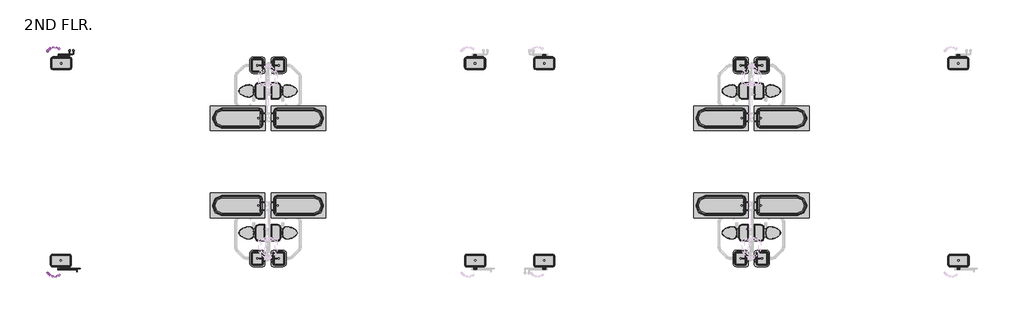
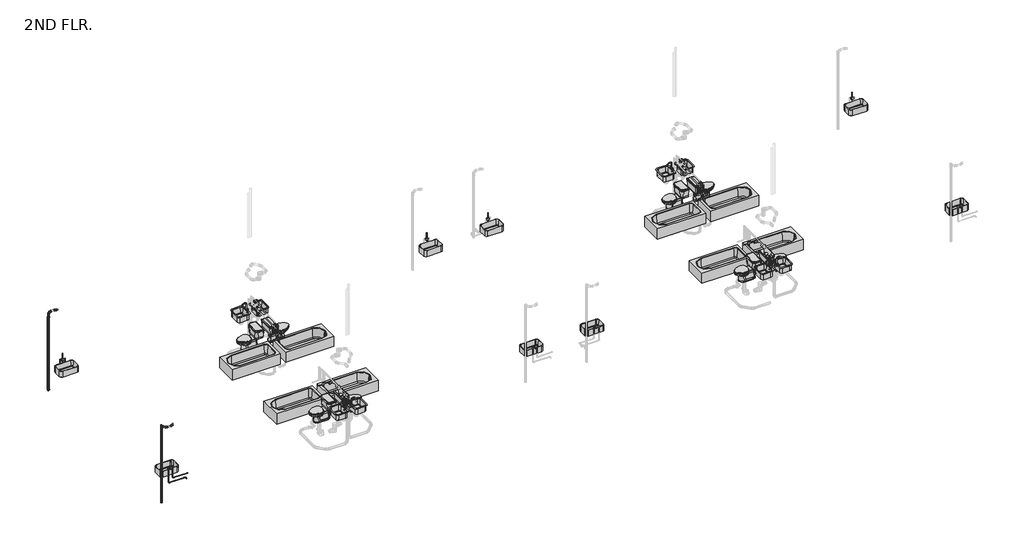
# One storey, part 1 of 15: 32 flow terminals, 21 pipe fittings, 21 pipe segments.
"""IFC4 building model written with IfcOpenShell, lengths in millimetres."""

from ifc_helpers import new_model, si_unit, point, frame, frame_2d, origin, place, context, project, spatial, circle_curve, trimmed, segment, composite_curve, outline, extrude, transform, mapped, element, save
from components import lsy_sink_1a_065a4558, lsy_sink_1a_83b20bf5, flow_terminal_62a433f7, flow_terminal_4d0de4d3, toilet_domestic_3d_toilet_domestic_3d_f7549cf7, toilet_domestic_3d_toilet_domestic_3d_183bbd19, toilet_domestic_3d_toilet_domestic_3d_a08e12bc, toilet_domestic_3d_toilet_domestic_3d_5530cc89, tub_rectangular_3d_tub_rectangular_3d_d1c8eb0f, tub_rectangular_3d_tub_rectangular_3d_b9fe3472, bend_pvc_sch_40_dwv_standard_e59a9f3a, bend_pvc_sch_40_dwv_standard_9b1ab2e2, bend_pvc_sch_40_dwv_standard_c28c2be1, bend_pvc_sch_40_dwv_standard_9a61ab34, pipe_elbow_copper_k_aad62f2d, pipe_elbow_copper_k_4cfe590c, pipe_elbow_copper_k_69a8f9be, pipe_tee_copper_k_60c871d1, pipe_transition_copper_k_4b29cc47, reducer_pvc_sch_40_dwv_standard_b2b0afcc, reducer_pvc_sch_40_dwv_standard_230e9924, tee_sanitary_pvc_sch_40_dwv_standard_be04015c, tee_sanitary_pvc_sch_40_dwv_standard_31acfb72

model = new_model("IFC4")

# Units and contexts
model_context = context("Model", 3, world=origin())
ifc_project = project(units=[si_unit("LENGTHUNIT", "METRE", prefix="MILLI")], contexts=[model_context])

# Site, building, storey
site = spatial("IfcSite", under=ifc_project)
building = spatial("IfcBuilding", under=site)
storey = spatial("IfcBuildingStorey", under=building, Name="2ND FLR.", Elevation=2844.8)

# Flow terminals
placement = place(None, origin())
lsy_sink_1a_shape = lsy_sink_1a_065a4558(model_context)
element("IfcFlowTerminal", 1, ObjectType="LSY_Sink_1A : 25\"W x 15\"D", at=placement, inside=storey, context=model_context, shape_type="MappedRepresentation", body=[
    mapped(lsy_sink_1a_shape, transform((-4245.7932531, 8626.5933869, 2806.7), x_axis=(1.0, 0.0, 0.0), y_axis=(0.0, 1.0, 0.0), z_axis=(0.0, 0.0, 1.0))),
])
element("IfcFlowTerminal", 2, ObjectType="LSY_Sink_1A : 25\"W x 15\"D", at=placement, inside=storey, context=model_context, shape_type="MappedRepresentation", body=[
    mapped(lsy_sink_1a_shape, transform((8488.922728, 2373.0341892, 2806.7), x_axis=(-1.0, 0.0, 0.0), y_axis=(0.0, -1.0, 0.0), z_axis=(0.0, 0.0, 1.0))),
])
element("IfcFlowTerminal", 3, ObjectType="LSY_Sink_1A : 25\"W x 15\"D", at=placement, inside=storey, context=model_context, shape_type="MappedRepresentation", body=[
    mapped(lsy_sink_1a_shape, transform((10578.6067469, 8626.5933869, 2806.7), x_axis=(1.0, 0.0, 0.0), y_axis=(0.0, 1.0, 0.0), z_axis=(0.0, 0.0, 1.0))),
])
element("IfcFlowTerminal", 4, ObjectType="LSY_Sink_1A : 25\"W x 15\"D", at=placement, inside=storey, context=model_context, shape_type="MappedRepresentation", body=[
    mapped(lsy_sink_1a_shape, transform((23313.322728, 2373.0341892, 2806.7), x_axis=(-1.0, 0.0, 0.0), y_axis=(0.0, -1.0, 0.0), z_axis=(0.0, 0.0, 1.0))),
])
lsy_sink_1a_2_shape = lsy_sink_1a_83b20bf5(model_context)
element("IfcFlowTerminal", 5, ObjectType="LSY_Sink_1A : 25\"W x 15\"D", at=placement, inside=storey, context=model_context, shape_type="MappedRepresentation", body=[
    mapped(lsy_sink_1a_2_shape, transform((-4252.3057531, 2373.0341892, 2806.7), x_axis=(1.0, 0.0, 0.0), y_axis=(0.0, 1.0, 0.0), z_axis=(0.0, 0.0, 1.0))),
])
element("IfcFlowTerminal", 6, ObjectType="LSY_Sink_1A : 25\"W x 15\"D", at=placement, inside=storey, context=model_context, shape_type="MappedRepresentation", body=[
    mapped(lsy_sink_1a_2_shape, transform((8482.410228, 8626.5933869, 2806.7), x_axis=(-1.0, 0.0, 0.0), y_axis=(0.0, -1.0, 0.0), z_axis=(0.0, 0.0, 1.0))),
])
element("IfcFlowTerminal", 7, ObjectType="LSY_Sink_1A : 25\"W x 15\"D", at=placement, inside=storey, context=model_context, shape_type="MappedRepresentation", body=[
    mapped(lsy_sink_1a_2_shape, transform((10572.0942469, 2373.0341892, 2806.7), x_axis=(1.0, 0.0, 0.0), y_axis=(0.0, 1.0, 0.0), z_axis=(0.0, 0.0, 1.0))),
])
element("IfcFlowTerminal", 8, ObjectType="LSY_Sink_1A : 25\"W x 15\"D", at=placement, inside=storey, context=model_context, shape_type="MappedRepresentation", body=[
    mapped(lsy_sink_1a_2_shape, transform((23306.810228, 8626.5933869, 2806.7), x_axis=(-1.0, 0.0, 0.0), y_axis=(0.0, -1.0, 0.0), z_axis=(0.0, 0.0, 1.0))),
])
flow_terminal_shape = flow_terminal_62a433f7(model_context)
element("IfcFlowTerminal", 9, ObjectType="Sink Vanity-Square : 20\" x 18\"", at=placement, inside=storey, context=model_context, shape_type="MappedRepresentation", body=[
    mapped(flow_terminal_shape, transform((1841.1630863, 2548.3030286, 2844.8), x_axis=(0.0, -1.0, 0.0), y_axis=(1.0, 0.0, 0.0), z_axis=(0.0, 0.0, 1.0))),
])
element("IfcFlowTerminal", 10, ObjectType="Sink Vanity-Square : 20\" x 18\"", at=placement, inside=storey, context=model_context, shape_type="MappedRepresentation", body=[
    mapped(flow_terminal_shape, transform((2395.4538886, 2516.9245475, 2844.8), x_axis=(0.0, 1.0, 0.0), y_axis=(-1.0, 0.0, 0.0), z_axis=(0.0, 0.0, 1.0))),
])
element("IfcFlowTerminal", 11, ObjectType="Sink Vanity-Square : 20\" x 18\"", at=placement, inside=storey, context=model_context, shape_type="MappedRepresentation", body=[
    mapped(flow_terminal_shape, transform((16665.1630863, 2548.3030286, 2844.8), x_axis=(0.0, -1.0, 0.0), y_axis=(1.0, 0.0, 0.0), z_axis=(0.0, 0.0, 1.0))),
])
element("IfcFlowTerminal", 12, ObjectType="Sink Vanity-Square : 20\" x 18\"", at=placement, inside=storey, context=model_context, shape_type="MappedRepresentation", body=[
    mapped(flow_terminal_shape, transform((17219.4538886, 2516.9245475, 2844.8), x_axis=(0.0, 1.0, 0.0), y_axis=(-1.0, 0.0, 0.0), z_axis=(0.0, 0.0, 1.0))),
])
flow_terminal_2_shape = flow_terminal_4d0de4d3(model_context)
element("IfcFlowTerminal", 13, ObjectType="Sink Vanity-Square : 20\" x 18\"", at=placement, inside=storey, context=model_context, shape_type="MappedRepresentation", body=[
    mapped(flow_terminal_2_shape, transform((16665.1630863, 8451.3245475, 2844.8), x_axis=(0.0, 1.0, 0.0), y_axis=(-1.0, 0.0, 0.0), z_axis=(0.0, 0.0, 1.0))),
])
element("IfcFlowTerminal", 14, ObjectType="Sink Vanity-Square : 20\" x 18\"", at=placement, inside=storey, context=model_context, shape_type="MappedRepresentation", body=[
    mapped(flow_terminal_2_shape, transform((17219.4538886, 8482.7030286, 2844.8), x_axis=(0.0, -1.0, 0.0), y_axis=(1.0, 0.0, 0.0), z_axis=(0.0, 0.0, 1.0))),
])
element("IfcFlowTerminal", 15, ObjectType="Sink Vanity-Square : 20\" x 18\"", at=placement, inside=storey, context=model_context, shape_type="MappedRepresentation", body=[
    mapped(flow_terminal_2_shape, transform((1841.1630863, 8451.3245475, 2844.8), x_axis=(0.0, 1.0, 0.0), y_axis=(-1.0, 0.0, 0.0), z_axis=(0.0, 0.0, 1.0))),
])
element("IfcFlowTerminal", 16, ObjectType="Sink Vanity-Square : 20\" x 18\"", at=placement, inside=storey, context=model_context, shape_type="MappedRepresentation", body=[
    mapped(flow_terminal_2_shape, transform((2395.4538886, 8482.7030286, 2844.8), x_axis=(0.0, -1.0, 0.0), y_axis=(1.0, 0.0, 0.0), z_axis=(0.0, 0.0, 1.0))),
])
toilet_domestic_3d_toilet_domestic_3d_shape = toilet_domestic_3d_toilet_domestic_3d_f7549cf7(model_context)
toilet_domestic_3d_toilet_domestic_3d_2_shape = toilet_domestic_3d_toilet_domestic_3d_183bbd19(model_context)
element("IfcFlowTerminal", 17, ObjectType="Toilet-Domestic-3D : Toilet-Domestic-3D", at=placement, inside=storey, context=model_context, shape_type="MappedRepresentation", body=[
    mapped(toilet_domestic_3d_toilet_domestic_3d_shape, transform((1526.6124601, 3320.0137881, 2844.8), x_axis=(0.0, -1.0, 0.0), y_axis=(1.0, 0.0, 0.0), z_axis=(0.0, 0.0, 1.0))),
    mapped(toilet_domestic_3d_toilet_domestic_3d_2_shape, transform((1526.6124601, 3320.0137881, 2844.8), x_axis=(0.0, -1.0, 0.0), y_axis=(1.0, 0.0, 0.0), z_axis=(0.0, 0.0, 1.0))),
])
element("IfcFlowTerminal", 18, ObjectType="Toilet-Domestic-3D : Toilet-Domestic-3D", at=placement, inside=storey, context=model_context, shape_type="MappedRepresentation", body=[
    mapped(toilet_domestic_3d_toilet_domestic_3d_shape, transform((2710.0045148, 3320.0137881, 2844.8), x_axis=(0.0, 1.0, 0.0), y_axis=(-1.0, 0.0, 0.0), z_axis=(0.0, 0.0, 1.0))),
    mapped(toilet_domestic_3d_toilet_domestic_3d_2_shape, transform((2710.0045148, 3320.0137881, 2844.8), x_axis=(0.0, 1.0, 0.0), y_axis=(-1.0, 0.0, 0.0), z_axis=(0.0, 0.0, 1.0))),
])
element("IfcFlowTerminal", 19, ObjectType="Toilet-Domestic-3D : Toilet-Domestic-3D", at=placement, inside=storey, context=model_context, shape_type="MappedRepresentation", body=[
    mapped(toilet_domestic_3d_toilet_domestic_3d_shape, transform((16350.6124601, 3320.0137881, 2844.8), x_axis=(0.0, -1.0, 0.0), y_axis=(1.0, 0.0, 0.0), z_axis=(0.0, 0.0, 1.0))),
    mapped(toilet_domestic_3d_toilet_domestic_3d_2_shape, transform((16350.6124601, 3320.0137881, 2844.8), x_axis=(0.0, -1.0, 0.0), y_axis=(1.0, 0.0, 0.0), z_axis=(0.0, 0.0, 1.0))),
])
element("IfcFlowTerminal", 20, ObjectType="Toilet-Domestic-3D : Toilet-Domestic-3D", at=placement, inside=storey, context=model_context, shape_type="MappedRepresentation", body=[
    mapped(toilet_domestic_3d_toilet_domestic_3d_shape, transform((17534.0045148, 3320.0137881, 2844.8), x_axis=(0.0, 1.0, 0.0), y_axis=(-1.0, 0.0, 0.0), z_axis=(0.0, 0.0, 1.0))),
    mapped(toilet_domestic_3d_toilet_domestic_3d_2_shape, transform((17534.0045148, 3320.0137881, 2844.8), x_axis=(0.0, 1.0, 0.0), y_axis=(-1.0, 0.0, 0.0), z_axis=(0.0, 0.0, 1.0))),
])
toilet_domestic_3d_toilet_domestic_3d_3_shape = toilet_domestic_3d_toilet_domestic_3d_a08e12bc(model_context)
toilet_domestic_3d_toilet_domestic_3d_4_shape = toilet_domestic_3d_toilet_domestic_3d_5530cc89(model_context)
element("IfcFlowTerminal", 21, ObjectType="Toilet-Domestic-3D : Toilet-Domestic-3D", at=placement, inside=storey, context=model_context, shape_type="MappedRepresentation", body=[
    mapped(toilet_domestic_3d_toilet_domestic_3d_3_shape, transform((16350.6124601, 7679.6137881, 2844.8), x_axis=(0.0, 1.0, 0.0), y_axis=(-1.0, 0.0, 0.0), z_axis=(0.0, 0.0, 1.0))),
    mapped(toilet_domestic_3d_toilet_domestic_3d_4_shape, transform((16350.6124601, 7679.6137881, 2844.8), x_axis=(0.0, 1.0, 0.0), y_axis=(-1.0, 0.0, 0.0), z_axis=(0.0, 0.0, 1.0))),
])
element("IfcFlowTerminal", 22, ObjectType="Toilet-Domestic-3D : Toilet-Domestic-3D", at=placement, inside=storey, context=model_context, shape_type="MappedRepresentation", body=[
    mapped(toilet_domestic_3d_toilet_domestic_3d_3_shape, transform((17534.0045148, 7679.6137881, 2844.8), x_axis=(0.0, -1.0, 0.0), y_axis=(1.0, 0.0, 0.0), z_axis=(0.0, 0.0, 1.0))),
    mapped(toilet_domestic_3d_toilet_domestic_3d_4_shape, transform((17534.0045148, 7679.6137881, 2844.8), x_axis=(0.0, -1.0, 0.0), y_axis=(1.0, 0.0, 0.0), z_axis=(0.0, 0.0, 1.0))),
])
element("IfcFlowTerminal", 23, ObjectType="Toilet-Domestic-3D : Toilet-Domestic-3D", at=placement, inside=storey, context=model_context, shape_type="MappedRepresentation", body=[
    mapped(toilet_domestic_3d_toilet_domestic_3d_3_shape, transform((1526.6124601, 7679.6137881, 2844.8), x_axis=(0.0, 1.0, 0.0), y_axis=(-1.0, 0.0, 0.0), z_axis=(0.0, 0.0, 1.0))),
    mapped(toilet_domestic_3d_toilet_domestic_3d_4_shape, transform((1526.6124601, 7679.6137881, 2844.8), x_axis=(0.0, 1.0, 0.0), y_axis=(-1.0, 0.0, 0.0), z_axis=(0.0, 0.0, 1.0))),
])
element("IfcFlowTerminal", 24, ObjectType="Toilet-Domestic-3D : Toilet-Domestic-3D", at=placement, inside=storey, context=model_context, shape_type="MappedRepresentation", body=[
    mapped(toilet_domestic_3d_toilet_domestic_3d_3_shape, transform((2710.0045148, 7679.6137881, 2844.8), x_axis=(0.0, -1.0, 0.0), y_axis=(1.0, 0.0, 0.0), z_axis=(0.0, 0.0, 1.0))),
    mapped(toilet_domestic_3d_toilet_domestic_3d_4_shape, transform((2710.0045148, 7679.6137881, 2844.8), x_axis=(0.0, -1.0, 0.0), y_axis=(1.0, 0.0, 0.0), z_axis=(0.0, 0.0, 1.0))),
])
tub_rectangular_3d_tub_rectangular_3d_shape = tub_rectangular_3d_tub_rectangular_3d_d1c8eb0f(model_context)
element("IfcFlowTerminal", 25, ObjectType="Tub-Rectangular-3D : Tub-Rectangular-3D", at=placement, inside=storey, context=model_context, shape_type="MappedRepresentation", body=[
    mapped(tub_rectangular_3d_tub_rectangular_3d_shape, transform((758.3055188, 4539.2137881, 2844.8), x_axis=(-1.0, 0.0, 0.0), y_axis=(0.0, -1.0, 0.0), z_axis=(0.0, 0.0, 1.0))),
])
element("IfcFlowTerminal", 26, ObjectType="Tub-Rectangular-3D : Tub-Rectangular-3D", at=placement, inside=storey, context=model_context, shape_type="MappedRepresentation", body=[
    mapped(tub_rectangular_3d_tub_rectangular_3d_shape, transform((15585.8805188, 4539.2137881, 2844.8), x_axis=(-1.0, 0.0, 0.0), y_axis=(0.0, -1.0, 0.0), z_axis=(0.0, 0.0, 1.0))),
])
element("IfcFlowTerminal", 27, ObjectType="Tub-Rectangular-3D : Tub-Rectangular-3D", at=placement, inside=storey, context=model_context, shape_type="MappedRepresentation", body=[
    mapped(tub_rectangular_3d_tub_rectangular_3d_shape, transform((18299.1364562, 6460.4137881, 2844.8), x_axis=(1.0, 0.0, 0.0), y_axis=(0.0, 1.0, 0.0), z_axis=(0.0, 0.0, 1.0))),
])
element("IfcFlowTerminal", 28, ObjectType="Tub-Rectangular-3D : Tub-Rectangular-3D", at=placement, inside=storey, context=model_context, shape_type="MappedRepresentation", body=[
    mapped(tub_rectangular_3d_tub_rectangular_3d_shape, transform((3475.1364562, 6460.4137881, 2844.8), x_axis=(1.0, 0.0, 0.0), y_axis=(0.0, 1.0, 0.0), z_axis=(0.0, 0.0, 1.0))),
])
tub_rectangular_3d_tub_rectangular_3d_2_shape = tub_rectangular_3d_tub_rectangular_3d_b9fe3472(model_context)
element("IfcFlowTerminal", 29, ObjectType="Tub-Rectangular-3D : Tub-Rectangular-3D", at=placement, inside=storey, context=model_context, shape_type="MappedRepresentation", body=[
    mapped(tub_rectangular_3d_tub_rectangular_3d_2_shape, transform((3475.1364562, 4539.2137881, 2844.8), x_axis=(1.0, 0.0, 0.0), y_axis=(0.0, 1.0, 0.0), z_axis=(0.0, 0.0, 1.0))),
])
element("IfcFlowTerminal", 30, ObjectType="Tub-Rectangular-3D : Tub-Rectangular-3D", at=placement, inside=storey, context=model_context, shape_type="MappedRepresentation", body=[
    mapped(tub_rectangular_3d_tub_rectangular_3d_2_shape, transform((18299.1364562, 4539.2137881, 2844.8), x_axis=(1.0, 0.0, 0.0), y_axis=(0.0, 1.0, 0.0), z_axis=(0.0, 0.0, 1.0))),
])
element("IfcFlowTerminal", 31, ObjectType="Tub-Rectangular-3D : Tub-Rectangular-3D", at=placement, inside=storey, context=model_context, shape_type="MappedRepresentation", body=[
    mapped(tub_rectangular_3d_tub_rectangular_3d_2_shape, transform((15585.4805188, 6460.4137881, 2844.8), x_axis=(-1.0, 0.0, 0.0), y_axis=(0.0, -1.0, 0.0), z_axis=(0.0, 0.0, 1.0))),
])
element("IfcFlowTerminal", 32, ObjectType="Tub-Rectangular-3D : Tub-Rectangular-3D", at=placement, inside=storey, context=model_context, shape_type="MappedRepresentation", body=[
    mapped(tub_rectangular_3d_tub_rectangular_3d_2_shape, transform((761.4805188, 6460.4137881, 2844.8), x_axis=(-1.0, 0.0, 0.0), y_axis=(0.0, -1.0, 0.0), z_axis=(0.0, 0.0, 1.0))),
])

# Pipe fittings
bend_pvc_sch_40_dwv_standard_shape = bend_pvc_sch_40_dwv_standard_e59a9f3a(model_context)
element("IfcPipeFitting", 33, ObjectType="Bend - PVC - Sch 40 - DWV : Standard", at=placement, inside=storey, context=model_context, shape_type="MappedRepresentation", body=[
    mapped(bend_pvc_sch_40_dwv_standard_shape, transform((-4335.4643184, 9017.693639, 5528.5324777), x_axis=(-0.7070684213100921, 0.7071067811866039, 0.007365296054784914), y_axis=(-0.7070684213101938, -0.7071067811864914, 0.007365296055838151), z_axis=(0.010416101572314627, 0.0, 0.9999457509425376))),
])
bend_pvc_sch_40_dwv_standard_2_shape = bend_pvc_sch_40_dwv_standard_9b1ab2e2(model_context)
element("IfcPipeFitting", 34, ObjectType="Bend - PVC - Sch 40 - DWV : Standard", at=placement, inside=storey, context=model_context, shape_type="MappedRepresentation", body=[
    mapped(bend_pvc_sch_40_dwv_standard_2_shape, transform((-4536.3609113, 9017.6936649, 5530.6310921), x_axis=(-0.9999457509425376, 0.0, 0.010416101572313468), y_axis=(4.542044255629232e-05, -0.9999904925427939, 0.004360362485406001), z_axis=(0.010416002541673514, 0.004360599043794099, 0.9999362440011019))),
])
bend_pvc_sch_40_dwv_standard_3_shape = bend_pvc_sch_40_dwv_standard_c28c2be1(model_context)
element("IfcPipeFitting", 35, ObjectType="Bend - PVC - Sch 40 - DWV : Standard", at=placement, inside=storey, context=model_context, shape_type="MappedRepresentation", body=[
    mapped(bend_pvc_sch_40_dwv_standard_3_shape, transform((-4337.0506636, 1981.9339371, 5528.5490021), x_axis=(-0.7070684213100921, -0.7071067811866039, 0.007365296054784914), y_axis=(0.7070684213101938, -0.7071067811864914, -0.007365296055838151), z_axis=(0.010416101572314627, 0.0, 0.9999457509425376))),
])
bend_pvc_sch_40_dwv_standard_4_shape = bend_pvc_sch_40_dwv_standard_9a61ab34(model_context)
element("IfcPipeFitting", 36, ObjectType="Bend - PVC - Sch 40 - DWV : Standard", at=placement, inside=storey, context=model_context, shape_type="MappedRepresentation", body=[
    mapped(bend_pvc_sch_40_dwv_standard_4_shape, transform((-4534.9964182, 1981.9339371, 5530.610937), x_axis=(-0.9999457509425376, 0.0, 0.010416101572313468), y_axis=(-4.542044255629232e-05, -0.9999904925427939, -0.004360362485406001), z_axis=(0.010416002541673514, -0.004360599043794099, 0.9999362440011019))),
])
pipe_elbow_copper_k_shape = pipe_elbow_copper_k_aad62f2d(model_context)
element("IfcPipeFitting", 37, ObjectType="Pipe Elbow : Copper- K", at=placement, inside=storey, context=model_context, shape_type="MappedRepresentation", body=[
    mapped(pipe_elbow_copper_k_shape, transform((-3742.3858484, 2195.725865, 3281.6601562), x_axis=(0.0, 0.9999994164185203, 0.0010803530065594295), y_axis=(-1.0, 0.0, 0.0), z_axis=(0.0, -0.0010803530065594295, 0.9999994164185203))),
])
element("IfcPipeFitting", 38, ObjectType="Pipe Elbow : Copper- K", at=placement, inside=storey, context=model_context, shape_type="MappedRepresentation", body=[
    mapped(pipe_elbow_copper_k_shape, transform((-4326.5858484, 2195.725865, 3281.6601563), x_axis=(-1.0, 0.0, 0.0), y_axis=(0.0, 0.0, 1.0), z_axis=(0.0, 1.0, 0.0))),
])
element("IfcPipeFitting", 39, ObjectType="Pipe Elbow : Copper- K", at=placement, inside=storey, context=model_context, shape_type="MappedRepresentation", body=[
    mapped(pipe_elbow_copper_k_shape, transform((-4326.5858484, 2195.725865, 3789.6601562), x_axis=(0.0, 0.0, 1.0), y_axis=(0.0, 1.0, 0.0), z_axis=(-1.0, 0.0, 0.0))),
])
element("IfcPipeFitting", 40, ObjectType="Pipe Elbow : Copper- K", at=placement, inside=storey, context=model_context, shape_type="MappedRepresentation", body=[
    mapped(pipe_elbow_copper_k_shape, transform((-4147.1086623, 8774.1278432, 3418.8796883), x_axis=(0.0, 0.0, -1.0), y_axis=(1.0, 0.0, 0.0), z_axis=(0.0, -1.0, 0.0))),
])
element("IfcPipeFitting", 41, ObjectType="Pipe Elbow : Copper- K", at=placement, inside=storey, context=model_context, shape_type="MappedRepresentation", body=[
    mapped(pipe_elbow_copper_k_shape, transform((-3971.8165125, 8774.1278432, 3418.8796883), x_axis=(1.0, 0.0, 0.0), y_axis=(0.0, 1.0, 0.0), z_axis=(0.0, 0.0, 1.0))),
])
element("IfcPipeFitting", 42, ObjectType="Pipe Elbow : Copper- K", at=placement, inside=storey, context=model_context, shape_type="MappedRepresentation", body=[
    mapped(pipe_elbow_copper_k_shape, transform((-4304.3608484, 8806.2157662, 3307.0601563), x_axis=(0.0, 0.0, -1.0), y_axis=(1.0, 0.0, 0.0), z_axis=(0.0, -1.0, 0.0))),
])
element("IfcPipeFitting", 43, ObjectType="Pipe Elbow : Copper- K", at=placement, inside=storey, context=model_context, shape_type="MappedRepresentation", body=[
    mapped(pipe_elbow_copper_k_shape, transform((-3851.0839703, 8806.2157662, 3307.0601562), x_axis=(1.0, 0.0, 0.0), y_axis=(0.0, 1.0, 0.0), z_axis=(0.0, 0.0, 1.0))),
])
pipe_elbow_copper_k_2_shape = pipe_elbow_copper_k_4cfe590c(model_context)
element("IfcPipeFitting", 44, ObjectType="Pipe Elbow : Copper- K", at=placement, inside=storey, context=model_context, shape_type="MappedRepresentation", body=[
    mapped(pipe_elbow_copper_k_2_shape, transform((-4169.3336623, 2227.8137881, 3393.4796875), x_axis=(-0.9999999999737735, 0.0, 7.242448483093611e-06), y_axis=(7.242448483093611e-06, 0.0, 0.9999999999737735), z_axis=(0.0, 1.0, 0.0))),
])
pipe_elbow_copper_k_3_shape = pipe_elbow_copper_k_69a8f9be(model_context)
element("IfcPipeFitting", 45, ObjectType="Pipe Elbow : Copper- K", at=placement, inside=storey, context=model_context, shape_type="MappedRepresentation", body=[
    mapped(pipe_elbow_copper_k_3_shape, transform((-4304.3608484, 8806.2157662, 3815.0601562), x_axis=(0.0, 0.0, 1.0), y_axis=(0.0, 1.0, 0.0), z_axis=(-1.0, 0.0, 0.0))),
])
pipe_tee_copper_k_shape = pipe_tee_copper_k_60c871d1(model_context)
element("IfcPipeFitting", 46, ObjectType="Pipe Tee : Copper- K", at=placement, inside=storey, context=model_context, shape_type="MappedRepresentation", body=[
    mapped(pipe_tee_copper_k_shape, transform((-3971.8165125, 8927.8175381, 3418.8796883), x_axis=(0.0, 0.0, 1.0), y_axis=(0.0, 1.0, 0.0), z_axis=(-1.0, 0.0, 0.0))),
])
element("IfcPipeFitting", 47, ObjectType="Pipe Tee : Copper- K", at=placement, inside=storey, context=model_context, shape_type="MappedRepresentation", body=[
    mapped(pipe_tee_copper_k_shape, transform((-3851.0839703, 8927.8175381, 3307.0601562), x_axis=(0.0, 0.0, 1.0), y_axis=(0.0, 1.0, 0.0), z_axis=(-1.0, 0.0, 0.0))),
])
pipe_transition_copper_k_shape = pipe_transition_copper_k_4b29cc47(model_context)
element("IfcPipeFitting", 48, ObjectType="Pipe Transition : Copper- K", at=placement, inside=storey, context=model_context, shape_type="MappedRepresentation", body=[
    mapped(pipe_transition_copper_k_shape, transform((-3971.8165125, 8894.4800381, 3418.8796883), x_axis=(0.0, -1.0, 0.0), y_axis=(1.0, 0.0, 0.0), z_axis=(0.0, 0.0, 1.0))),
])
element("IfcPipeFitting", 49, ObjectType="Pipe Transition : Copper- K", at=placement, inside=storey, context=model_context, shape_type="MappedRepresentation", body=[
    mapped(pipe_transition_copper_k_shape, transform((-3851.0839703, 8894.4800381, 3307.0601562), x_axis=(0.0, -1.0, 0.0), y_axis=(1.0, 0.0, 0.0), z_axis=(0.0, 0.0, 1.0))),
])
reducer_pvc_sch_40_dwv_standard_shape = reducer_pvc_sch_40_dwv_standard_b2b0afcc(model_context)
element("IfcPipeFitting", 50, ObjectType="Reducer - PVC - Sch 40 - DWV : Standard", at=placement, inside=storey, context=model_context, shape_type="MappedRepresentation", body=[
    mapped(reducer_pvc_sch_40_dwv_standard_shape, transform((-4642.7612611, 8912.119871, 2732.6657899), x_axis=(0.0, 0.0, 1.0), y_axis=(-0.7043441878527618, 0.7098586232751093, 0.0), z_axis=(-0.7098586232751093, -0.7043441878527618, 0.0))),
])
reducer_pvc_sch_40_dwv_standard_2_shape = reducer_pvc_sch_40_dwv_standard_230e9924(model_context)
element("IfcPipeFitting", 51, ObjectType="Reducer - PVC - Sch 40 - DWV : Standard", at=placement, inside=storey, context=model_context, shape_type="MappedRepresentation", body=[
    mapped(reducer_pvc_sch_40_dwv_standard_2_shape, transform((-4642.7612611, 8912.119871, 5470.3000234), x_axis=(0.0, 0.0, -1.0), y_axis=(0.7043441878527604, -0.7098586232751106, 0.0), z_axis=(-0.7098586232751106, -0.7043441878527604, 0.0))),
])
tee_sanitary_pvc_sch_40_dwv_standard_shape = tee_sanitary_pvc_sch_40_dwv_standard_be04015c(model_context)
element("IfcPipeFitting", 52, ObjectType="Tee Sanitary - PVC - Sch 40 - DWV : Standard", at=placement, inside=storey, context=model_context, shape_type="MappedRepresentation", body=[
    mapped(tee_sanitary_pvc_sch_40_dwv_standard_shape, transform((-4642.7612611, 8912.119871, 5532.1998234), x_axis=(0.0, 0.0, 1.0), y_axis=(-0.7098586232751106, -0.7043441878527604, 0.0), z_axis=(0.7043441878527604, -0.7098586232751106, 0.0))),
])
tee_sanitary_pvc_sch_40_dwv_standard_2_shape = tee_sanitary_pvc_sch_40_dwv_standard_31acfb72(model_context)
element("IfcPipeFitting", 53, ObjectType="Tee Sanitary - PVC - Sch 40 - DWV : Standard", at=placement, inside=storey, context=model_context, shape_type="MappedRepresentation", body=[
    mapped(tee_sanitary_pvc_sch_40_dwv_standard_2_shape, transform((-4642.7638012, 2088.8641446, 5532.1998234), x_axis=(0.0, 0.0, 1.0), y_axis=(0.7098586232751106, -0.7043441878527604, 0.0), z_axis=(0.7043441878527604, 0.7098586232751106, 0.0))),
])

# Pipe segments
element("IfcPipeSegment", 54, ObjectType="Copper", at=placement, inside=storey, context=model_context, shape_type="SweptSolid", body=[
    extrude(outline(composite_curve([segment(trimmed(circle_curve(frame_2d((3789.6601563, -4326.5858484)), 7.9375), [point((3789.6601563, -4318.6483484))], [point((3797.5976563, -4326.5858484))], False, "CARTESIAN"), True, "CONTINUOUS"), segment(trimmed(circle_curve(frame_2d((3789.6601563, -4326.5858484)), 7.9375), [point((3797.5976563, -4326.5858484))], [point((3789.6601563, -4334.5233484))], False, "CARTESIAN"), True, "CONTINUOUS"), segment(trimmed(circle_curve(frame_2d((3789.6601563, -4326.5858484)), 7.9375), [point((3789.6601563, -4334.5233484))], [point((3781.7226563, -4326.5858484))], False, "CARTESIAN"), True, "CONTINUOUS"), segment(trimmed(circle_curve(frame_2d((3789.6601563, -4326.5858484)), 7.9375), [point((3781.7226563, -4326.5858484))], [point((3789.6601563, -4318.6483484))], False, "CARTESIAN"), True, "CONTINUOUS")], self_intersect=False)), frame((0.0, 2213.188365, 0.0), z_axis=(0.0, 1.0, 0.0), x_axis=(0.0, 0.0, 1.0)), (0.0, 0.0, 1.0), 17.3178158),
])
element("IfcPipeSegment", 55, ObjectType="Copper", at=placement, inside=storey, context=model_context, shape_type="SweptSolid", body=[
    extrude(outline(composite_curve([segment(trimmed(circle_curve(frame_2d((0.0, 7.9375)), 7.9375), [point((-7.9375, 7.9375))], [point((0.0, 15.875))], False, "CARTESIAN"), True, "CONTINUOUS"), segment(trimmed(circle_curve(frame_2d((0.0, 7.9375)), 7.9375), [point((0.0, 15.875))], [point((7.9375, 7.9375))], False, "CARTESIAN"), True, "CONTINUOUS"), segment(trimmed(circle_curve(frame_2d((0.0, 7.9375)), 7.9375), [point((7.9375, 7.9375))], [point((0.0, 0.0))], False, "CARTESIAN"), True, "CONTINUOUS"), segment(trimmed(circle_curve(frame_2d((0.0, 7.9375)), 7.9375), [point((0.0, 0.0))], [point((-7.9375, 7.9375))], False, "CARTESIAN"), True, "CONTINUOUS")], self_intersect=False)), frame((-3640.6962197, 2227.8137881, 3385.5383589), z_axis=(-0.9999999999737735, 0.0, 7.242448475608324e-06), x_axis=(0.0, -1.0, 0.0)), (0.0, 0.0, 1.0), 511.1751265),
])
element("IfcPipeSegment", 56, ObjectType="Copper", at=placement, inside=storey, context=model_context, shape_type="SweptSolid", body=[
    extrude(outline(composite_curve([segment(trimmed(circle_curve(frame_2d((-4169.3336623, 2227.8137881)), 7.9375), [point((-4177.2711623, 2227.8137881))], [point((-4169.3336623, 2235.7512881))], False, "CARTESIAN"), True, "CONTINUOUS"), segment(trimmed(circle_curve(frame_2d((-4169.3336623, 2227.8137881)), 7.9375), [point((-4169.3336623, 2235.7512881))], [point((-4161.3961623, 2227.8137881))], False, "CARTESIAN"), True, "CONTINUOUS"), segment(trimmed(circle_curve(frame_2d((-4169.3336623, 2227.8137881)), 7.9375), [point((-4161.3961623, 2227.8137881))], [point((-4169.3336623, 2219.8762881))], False, "CARTESIAN"), True, "CONTINUOUS"), segment(trimmed(circle_curve(frame_2d((-4169.3336623, 2227.8137881)), 7.9375), [point((-4169.3336623, 2219.8762881))], [point((-4177.2711623, 2227.8137881))], False, "CARTESIAN"), True, "CONTINUOUS")], self_intersect=False)), frame((0.0, 0.0, 3410.942061), z_axis=(0.0, 0.0, 1.0), x_axis=(1.0, 0.0, 0.0)), (0.0, 0.0, 1.0), 378.7180952),
])
element("IfcPipeSegment", 57, ObjectType="Copper", at=placement, inside=storey, context=model_context, shape_type="SweptSolid", body=[
    extrude(outline(composite_curve([segment(trimmed(circle_curve(frame_2d((0.0, 7.9375)), 7.9375), [point((0.0, 15.875))], [point((7.9374999, 7.9375))], False, "CARTESIAN"), True, "CONTINUOUS"), segment(trimmed(circle_curve(frame_2d((0.0, 7.9375)), 7.9375), [point((7.9374999, 7.9375))], [point((0.0, 0.0))], False, "CARTESIAN"), True, "CONTINUOUS"), segment(trimmed(circle_curve(frame_2d((0.0, 7.9375)), 7.9375), [point((0.0, 0.0))], [point((-7.9375, 7.9375))], False, "CARTESIAN"), True, "CONTINUOUS"), segment(trimmed(circle_curve(frame_2d((0.0, 7.9375)), 7.9375), [point((-7.9375, 7.9375))], [point((0.0, 15.875))], False, "CARTESIAN"), True, "CONTINUOUS")], self_intersect=False)), frame((-3750.3233484, 2128.1124308, 3281.6214111), z_axis=(0.0, 0.9999994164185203, 0.001080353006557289), x_axis=(0.0, -0.001080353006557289, 0.9999994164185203)), (0.0, 0.0, 1.0), 50.1509366),
])
element("IfcPipeSegment", 58, ObjectType="Copper", at=placement, inside=storey, context=model_context, shape_type="SweptSolid", body=[
    extrude(outline(composite_curve([segment(trimmed(circle_curve(frame_2d((2195.725865, 3281.6601562)), 7.9375), [point((2203.663365, 3281.6601562))], [point((2195.725865, 3273.7226562))], False, "CARTESIAN"), True, "CONTINUOUS"), segment(trimmed(circle_curve(frame_2d((2195.725865, 3281.6601562)), 7.9375), [point((2195.725865, 3273.7226562))], [point((2187.788365, 3281.6601562))], False, "CARTESIAN"), True, "CONTINUOUS"), segment(trimmed(circle_curve(frame_2d((2195.725865, 3281.6601562)), 7.9375), [point((2187.788365, 3281.6601562))], [point((2195.725865, 3289.5976562))], False, "CARTESIAN"), True, "CONTINUOUS"), segment(trimmed(circle_curve(frame_2d((2195.725865, 3281.6601562)), 7.9375), [point((2195.725865, 3289.5976562))], [point((2203.663365, 3281.6601562))], False, "CARTESIAN"), True, "CONTINUOUS")], self_intersect=False)), frame((-4309.1233484, 0.0, 0.0), z_axis=(1.0, 0.0, 0.0), x_axis=(0.0, 1.0, 0.0)), (0.0, 0.0, 1.0), 549.275),
])
element("IfcPipeSegment", 59, ObjectType="Copper", at=placement, inside=storey, context=model_context, shape_type="SweptSolid", body=[
    extrude(outline(composite_curve([segment(trimmed(circle_curve(frame_2d((-4326.5858484, 2195.725865)), 7.9375), [point((-4334.5233484, 2195.725865))], [point((-4326.5858484, 2203.663365))], False, "CARTESIAN"), True, "CONTINUOUS"), segment(trimmed(circle_curve(frame_2d((-4326.5858484, 2195.725865)), 7.9375), [point((-4326.5858484, 2203.663365))], [point((-4318.6483484, 2195.725865))], False, "CARTESIAN"), True, "CONTINUOUS"), segment(trimmed(circle_curve(frame_2d((-4326.5858484, 2195.725865)), 7.9375), [point((-4318.6483484, 2195.725865))], [point((-4326.5858484, 2187.788365))], False, "CARTESIAN"), True, "CONTINUOUS"), segment(trimmed(circle_curve(frame_2d((-4326.5858484, 2195.725865)), 7.9375), [point((-4326.5858484, 2187.788365))], [point((-4334.5233484, 2195.725865))], False, "CARTESIAN"), True, "CONTINUOUS")], self_intersect=False)), frame((0.0, 0.0, 3299.1226562), z_axis=(0.0, 0.0, 1.0), x_axis=(1.0, 0.0, 0.0)), (0.0, 0.0, 1.0), 473.075),
])
element("IfcPipeSegment", 60, ObjectType="Copper", at=placement, inside=storey, context=model_context, shape_type="SweptSolid", body=[
    extrude(outline(composite_curve([segment(trimmed(circle_curve(frame_2d((3815.0601563, -4304.3608484)), 7.9375), [point((3815.0601563, -4312.2983484))], [point((3807.1226563, -4304.3608484))], False, "CARTESIAN"), True, "CONTINUOUS"), segment(trimmed(circle_curve(frame_2d((3815.0601563, -4304.3608484)), 7.9375), [point((3807.1226563, -4304.3608484))], [point((3815.0601563, -4296.4233484))], False, "CARTESIAN"), True, "CONTINUOUS"), segment(trimmed(circle_curve(frame_2d((3815.0601563, -4304.3608484)), 7.9375), [point((3815.0601563, -4296.4233484))], [point((3822.9976563, -4304.3608484))], False, "CARTESIAN"), True, "CONTINUOUS"), segment(trimmed(circle_curve(frame_2d((3815.0601563, -4304.3608484)), 7.9375), [point((3822.9976563, -4304.3608484))], [point((3815.0601563, -4312.2983484))], False, "CARTESIAN"), True, "CONTINUOUS")], self_intersect=False)), frame((0.0, 8771.4354504, 0.0), z_axis=(0.0, 1.0, 0.0), x_axis=(0.0, 0.0, 1.0)), (0.0, 0.0, 1.0), 17.3178158),
])
element("IfcPipeSegment", 61, ObjectType="Copper", at=placement, inside=storey, context=model_context, shape_type="SweptSolid", body=[
    extrude(outline(composite_curve([segment(trimmed(circle_curve(frame_2d((8774.1278432, 3418.8796883)), 7.9375), [point((8766.1903432, 3418.8796883))], [point((8774.1278432, 3426.8171883))], False, "CARTESIAN"), True, "CONTINUOUS"), segment(trimmed(circle_curve(frame_2d((8774.1278432, 3418.8796883)), 7.9375), [point((8774.1278432, 3426.8171883))], [point((8782.0653432, 3418.8796883))], False, "CARTESIAN"), True, "CONTINUOUS"), segment(trimmed(circle_curve(frame_2d((8774.1278432, 3418.8796883)), 7.9375), [point((8782.0653432, 3418.8796883))], [point((8774.1278432, 3410.9421883))], False, "CARTESIAN"), True, "CONTINUOUS"), segment(trimmed(circle_curve(frame_2d((8774.1278432, 3418.8796883)), 7.9375), [point((8774.1278432, 3410.9421883))], [point((8766.1903432, 3418.8796883))], False, "CARTESIAN"), True, "CONTINUOUS")], self_intersect=False)), frame((-4129.6461623, 0.0, 0.0), z_axis=(1.0, 0.0, 0.0), x_axis=(0.0, 1.0, 0.0)), (0.0, 0.0, 1.0), 140.3671497),
])
element("IfcPipeSegment", 62, ObjectType="Copper", at=placement, inside=storey, context=model_context, shape_type="SweptSolid", body=[
    extrude(outline(composite_curve([segment(trimmed(circle_curve(frame_2d((-4147.1086623, 8774.1278432)), 7.9375), [point((-4155.0461623, 8774.1278432))], [point((-4147.1086623, 8782.0653432))], False, "CARTESIAN"), True, "CONTINUOUS"), segment(trimmed(circle_curve(frame_2d((-4147.1086623, 8774.1278432)), 7.9375), [point((-4147.1086623, 8782.0653432))], [point((-4139.1711623, 8774.1278432))], False, "CARTESIAN"), True, "CONTINUOUS"), segment(trimmed(circle_curve(frame_2d((-4147.1086623, 8774.1278432)), 7.9375), [point((-4139.1711623, 8774.1278432))], [point((-4147.1086623, 8766.1903432))], False, "CARTESIAN"), True, "CONTINUOUS"), segment(trimmed(circle_curve(frame_2d((-4147.1086623, 8774.1278432)), 7.9375), [point((-4147.1086623, 8766.1903432))], [point((-4155.0461623, 8774.1278432))], False, "CARTESIAN"), True, "CONTINUOUS")], self_intersect=False)), frame((0.0, 0.0, 3436.3421883), z_axis=(0.0, 0.0, 1.0), x_axis=(1.0, 0.0, 0.0)), (0.0, 0.0, 1.0), 378.7179679),
])
element("IfcPipeSegment", 63, ObjectType="Copper", at=placement, inside=storey, context=model_context, shape_type="SweptSolid", body=[
    extrude(outline(composite_curve([segment(trimmed(circle_curve(frame_2d((8806.2157662, 3307.0601562)), 7.9375), [point((8798.2782662, 3307.0601562))], [point((8806.2157662, 3314.9976562))], False, "CARTESIAN"), True, "CONTINUOUS"), segment(trimmed(circle_curve(frame_2d((8806.2157662, 3307.0601562)), 7.9375), [point((8806.2157662, 3314.9976562))], [point((8814.1532662, 3307.0601562))], False, "CARTESIAN"), True, "CONTINUOUS"), segment(trimmed(circle_curve(frame_2d((8806.2157662, 3307.0601562)), 7.9375), [point((8814.1532662, 3307.0601562))], [point((8806.2157662, 3299.1226562))], False, "CARTESIAN"), True, "CONTINUOUS"), segment(trimmed(circle_curve(frame_2d((8806.2157662, 3307.0601562)), 7.9375), [point((8806.2157662, 3299.1226562))], [point((8798.2782662, 3307.0601562))], False, "CARTESIAN"), True, "CONTINUOUS")], self_intersect=False)), frame((-4286.8983484, 0.0, 0.0), z_axis=(1.0, 0.0, 0.0), x_axis=(0.0, 1.0, 0.0)), (0.0, 0.0, 1.0), 418.351878),
])
element("IfcPipeSegment", 64, ObjectType="Copper", at=placement, inside=storey, context=model_context, shape_type="SweptSolid", body=[
    extrude(outline(composite_curve([segment(trimmed(circle_curve(frame_2d((-4304.3608484, 8806.2157662)), 7.9375), [point((-4312.2983484, 8806.2157662))], [point((-4304.3608484, 8814.1532662))], False, "CARTESIAN"), True, "CONTINUOUS"), segment(trimmed(circle_curve(frame_2d((-4304.3608484, 8806.2157662)), 7.9375), [point((-4304.3608484, 8814.1532662))], [point((-4296.4233484, 8806.2157662))], False, "CARTESIAN"), True, "CONTINUOUS"), segment(trimmed(circle_curve(frame_2d((-4304.3608484, 8806.2157662)), 7.9375), [point((-4296.4233484, 8806.2157662))], [point((-4304.3608484, 8798.2782662))], False, "CARTESIAN"), True, "CONTINUOUS"), segment(trimmed(circle_curve(frame_2d((-4304.3608484, 8806.2157662)), 7.9375), [point((-4304.3608484, 8798.2782662))], [point((-4312.2983484, 8806.2157662))], False, "CARTESIAN"), True, "CONTINUOUS")], self_intersect=False)), frame((0.0, 0.0, 3324.5226562), z_axis=(0.0, 0.0, 1.0), x_axis=(1.0, 0.0, 0.0)), (0.0, 0.0, 1.0), 473.075),
])
element("IfcPipeSegment", 65, ObjectType="Copper", at=placement, inside=storey, context=model_context, shape_type="SweptSolid", body=[
    extrude(outline(composite_curve([segment(trimmed(circle_curve(frame_2d((3418.8796883, -3971.8165125)), 7.9375), [point((3418.8796883, -3979.7540125))], [point((3410.9421883, -3971.8165125))], False, "CARTESIAN"), True, "CONTINUOUS"), segment(trimmed(circle_curve(frame_2d((3418.8796883, -3971.8165125)), 7.9375), [point((3410.9421883, -3971.8165125))], [point((3418.8796883, -3963.8790125))], False, "CARTESIAN"), True, "CONTINUOUS"), segment(trimmed(circle_curve(frame_2d((3418.8796883, -3971.8165125)), 7.9375), [point((3418.8796883, -3963.8790125))], [point((3426.8171883, -3971.8165125))], False, "CARTESIAN"), True, "CONTINUOUS"), segment(trimmed(circle_curve(frame_2d((3418.8796883, -3971.8165125)), 7.9375), [point((3426.8171883, -3971.8165125))], [point((3418.8796883, -3979.7540125))], False, "CARTESIAN"), True, "CONTINUOUS")], self_intersect=False)), frame((0.0, 8791.5903432, 0.0), z_axis=(0.0, 1.0, 0.0), x_axis=(0.0, 0.0, 1.0)), (0.0, 0.0, 1.0), 94.1584448),
])
element("IfcPipeSegment", 66, ObjectType="Copper", at=placement, inside=storey, context=model_context, shape_type="SweptSolid", body=[
    extrude(outline(composite_curve([segment(trimmed(circle_curve(frame_2d((3307.0601562, -3851.0839703)), 7.9375), [point((3307.0601562, -3859.0214703))], [point((3299.1226562, -3851.0839703))], False, "CARTESIAN"), True, "CONTINUOUS"), segment(trimmed(circle_curve(frame_2d((3307.0601562, -3851.0839703)), 7.9375), [point((3299.1226562, -3851.0839703))], [point((3307.0601562, -3843.1464703))], False, "CARTESIAN"), True, "CONTINUOUS"), segment(trimmed(circle_curve(frame_2d((3307.0601562, -3851.0839703)), 7.9375), [point((3307.0601562, -3843.1464703))], [point((3314.9976562, -3851.0839703))], False, "CARTESIAN"), True, "CONTINUOUS"), segment(trimmed(circle_curve(frame_2d((3307.0601562, -3851.0839703)), 7.9375), [point((3314.9976562, -3851.0839703))], [point((3307.0601562, -3859.0214703))], False, "CARTESIAN"), True, "CONTINUOUS")], self_intersect=False)), frame((0.0, 8823.6782662, 0.0), z_axis=(0.0, 1.0, 0.0), x_axis=(0.0, 0.0, 1.0)), (0.0, 0.0, 1.0), 62.0705218),
])
element("IfcPipeSegment", 67, ObjectType="PVC - SAN/STORM", at=placement, inside=storey, context=model_context, shape_type="SweptSolid", body=[
    extrude(outline(composite_curve([segment(trimmed(circle_curve(frame_2d((0.0, 24.13)), 24.13), [point((24.1293456, 24.3077101))], [point((0.1777101, 0.0006544))], False, "CARTESIAN"), True, "CONTINUOUS"), segment(trimmed(circle_curve(frame_2d((0.0, 24.13)), 24.13), [point((0.1777101, 0.0006544))], [point((-24.1293456, 23.9522899))], False, "CARTESIAN"), True, "CONTINUOUS"), segment(trimmed(circle_curve(frame_2d((0.0, 24.13)), 24.13), [point((-24.1293456, 23.9522899))], [point((-0.1777102, 48.2593456))], False, "CARTESIAN"), True, "CONTINUOUS"), segment(trimmed(circle_curve(frame_2d((0.0, 24.13)), 24.13), [point((-0.1777102, 48.2593456))], [point((24.1293456, 24.3077101))], False, "CARTESIAN"), True, "CONTINUOUS")], self_intersect=False)), frame((-4273.0586914, 8955.0332995, 5552.0111102), z_axis=(-0.707068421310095, 0.7071067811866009, 0.007365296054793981), x_axis=(0.7071451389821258, 0.7070300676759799, 0.007364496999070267)), (0.0, 0.0, 1.0), 42.234872),
])
element("IfcPipeSegment", 68, ObjectType="PVC - SAN/STORM", at=placement, inside=storey, context=model_context, shape_type="SweptSolid", body=[
    extrude(outline(composite_curve([segment(trimmed(circle_curve(frame_2d((1e-07, 24.13)), 24.13), [point((0.0005486, 48.26))], [point((24.13, 24.1294515))], False, "CARTESIAN"), True, "CONTINUOUS"), segment(trimmed(circle_curve(frame_2d((1e-07, 24.13)), 24.13), [point((24.13, 24.1294515))], [point((-0.0005484, 0.0))], False, "CARTESIAN"), True, "CONTINUOUS"), segment(trimmed(circle_curve(frame_2d((1e-07, 24.13)), 24.13), [point((-0.0005484, 0.0))], [point((-24.13, 24.1305484))], False, "CARTESIAN"), True, "CONTINUOUS"), segment(trimmed(circle_curve(frame_2d((1e-07, 24.13)), 24.13), [point((-24.13, 24.1305484))], [point((0.0005486, 48.26))], False, "CARTESIAN"), True, "CONTINUOUS")], self_intersect=False)), frame((-4381.4866216, 8993.563639, 5529.0124251), z_axis=(-0.9999451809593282, 2.379966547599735e-07, 0.010470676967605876), x_axis=(0.010470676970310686, 2.2728578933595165e-05, 0.9999451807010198)), (0.0, 0.0, 1.0), 108.857954),
])
element("IfcPipeSegment", 69, ObjectType="PVC - SAN/STORM", at=placement, inside=storey, context=model_context, shape_type="SweptSolid", body=[
    extrude(outline(composite_curve([segment(trimmed(circle_curve(frame_2d((0.0, 24.13)), 24.13), [point((-24.128658, 24.3844918))], [point((0.2544917, 48.2586579))], False, "CARTESIAN"), True, "CONTINUOUS"), segment(trimmed(circle_curve(frame_2d((0.0, 24.13)), 24.13), [point((0.2544917, 48.2586579))], [point((24.128658, 23.8755083))], False, "CARTESIAN"), True, "CONTINUOUS"), segment(trimmed(circle_curve(frame_2d((0.0, 24.13)), 24.13), [point((24.128658, 23.8755083))], [point((-0.2544917, 0.001342))], False, "CARTESIAN"), True, "CONTINUOUS"), segment(trimmed(circle_curve(frame_2d((0.0, 24.13)), 24.13), [point((-0.2544917, 0.001342))], [point((-24.128658, 24.3844918))], False, "CARTESIAN"), True, "CONTINUOUS")], self_intersect=False)), frame((-4569.0302233, 8984.9196293, 5506.985421), z_axis=(-0.7098197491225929, -0.7043056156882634, 0.010465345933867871), x_axis=(0.70438336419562, -0.7097414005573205, 0.010546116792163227)), (0.0, 0.0, 1.0), 41.9731028),
])
element("IfcPipeSegment", 70, ObjectType="PVC - SAN/STORM", at=placement, inside=storey, context=model_context, shape_type="SweptSolid", body=[
    extrude(outline(composite_curve([segment(trimmed(circle_curve(frame_2d((-4642.7612611, 8912.119871)), 30.1625), [point((-4612.5987611, 8912.119871))], [point((-4642.7612611, 8881.957371))], False, "CARTESIAN"), True, "CONTINUOUS"), segment(trimmed(circle_curve(frame_2d((-4642.7612611, 8912.119871)), 30.1625), [point((-4642.7612611, 8881.957371))], [point((-4672.9237611, 8912.119871))], False, "CARTESIAN"), True, "CONTINUOUS"), segment(trimmed(circle_curve(frame_2d((-4642.7612611, 8912.119871)), 30.1625), [point((-4672.9237611, 8912.119871))], [point((-4642.7612611, 8942.282371))], False, "CARTESIAN"), True, "CONTINUOUS"), segment(trimmed(circle_curve(frame_2d((-4642.7612611, 8912.119871)), 30.1625), [point((-4642.7612611, 8942.282371))], [point((-4612.5987611, 8912.119871))], False, "CARTESIAN"), True, "CONTINUOUS")], self_intersect=False)), frame((0.0, 0.0, 2782.6529899), z_axis=(0.0, 0.0, 1.0), x_axis=(1.0, 0.0, 0.0)), (0.0, 0.0, 1.0), 2637.6598335),
])
element("IfcPipeSegment", 71, ObjectType="PVC - SAN/STORM", at=placement, inside=storey, context=model_context, shape_type="SweptSolid", body=[
    extrude(outline(composite_curve([segment(trimmed(circle_curve(frame_2d((0.0, 24.1300001)), 24.13), [point((-24.1293456, 24.3077102))], [point((0.1777101, 48.2593457))], False, "CARTESIAN"), True, "CONTINUOUS"), segment(trimmed(circle_curve(frame_2d((0.0, 24.1300001)), 24.13), [point((0.1777101, 48.2593457))], [point((24.1293456, 23.95229))], False, "CARTESIAN"), True, "CONTINUOUS"), segment(trimmed(circle_curve(frame_2d((0.0, 24.1300001)), 24.13), [point((24.1293456, 23.95229))], [point((-0.1777101, 0.0006545))], False, "CARTESIAN"), True, "CONTINUOUS"), segment(trimmed(circle_curve(frame_2d((0.0, 24.1300001)), 24.13), [point((-0.1777101, 0.0006545))], [point((-24.1293456, 24.3077102))], False, "CARTESIAN"), True, "CONTINUOUS")], self_intersect=False)), frame((-4273.0586914, 2045.6780541, 5503.7537279), z_axis=(-0.707068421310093, -0.7071067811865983, 0.007365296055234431), x_axis=(0.7071451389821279, -0.7070300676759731, 0.007364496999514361)), (0.0, 0.0, 1.0), 44.4784246),
])
element("IfcPipeSegment", 72, ObjectType="PVC - SAN/STORM", at=placement, inside=storey, context=model_context, shape_type="SweptSolid", body=[
    extrude(outline(composite_curve([segment(trimmed(circle_curve(frame_2d((0.0, 24.13)), 24.13), [point((0.0, 48.26))], [point((24.13, 24.13))], False, "CARTESIAN"), True, "CONTINUOUS"), segment(trimmed(circle_curve(frame_2d((0.0, 24.13)), 24.13), [point((24.13, 24.13))], [point((0.0, 0.0))], False, "CARTESIAN"), True, "CONTINUOUS"), segment(trimmed(circle_curve(frame_2d((0.0, 24.13)), 24.13), [point((0.0, 0.0))], [point((-24.13, 24.13))], False, "CARTESIAN"), True, "CONTINUOUS"), segment(trimmed(circle_curve(frame_2d((0.0, 24.13)), 24.13), [point((-24.13, 24.13))], [point((0.0, 48.26))], False, "CARTESIAN"), True, "CONTINUOUS")], self_intersect=False)), frame((-4383.0729668, 1957.8039371, 5529.0284011), z_axis=(-0.9999457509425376, 0.0, 0.010416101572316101), x_axis=(0.010416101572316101, 0.0, 0.9999457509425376)), (0.0, 0.0, 1.0), 105.9068936),
])
element("IfcPipeSegment", 73, ObjectType="PVC - SAN/STORM", at=placement, inside=storey, context=model_context, shape_type="SweptSolid", body=[
    extrude(outline(composite_curve([segment(trimmed(circle_curve(frame_2d((0.0, 24.13)), 24.13), [point((24.128658, 24.3844918))], [point((0.2544918, 0.001342))], False, "CARTESIAN"), True, "CONTINUOUS"), segment(trimmed(circle_curve(frame_2d((0.0, 24.13)), 24.13), [point((0.2544918, 0.001342))], [point((-24.1286579, 23.8755083))], False, "CARTESIAN"), True, "CONTINUOUS"), segment(trimmed(circle_curve(frame_2d((0.0, 24.13)), 24.13), [point((-24.1286579, 23.8755083))], [point((-0.2544917, 48.258658))], False, "CARTESIAN"), True, "CONTINUOUS"), segment(trimmed(circle_curve(frame_2d((0.0, 24.13)), 24.13), [point((-0.2544917, 48.258658))], [point((24.128658, 24.3844918))], False, "CARTESIAN"), True, "CONTINUOUS")], self_intersect=False)), frame((-4567.6657302, 2013.9909518, 5555.2199391), z_axis=(-0.7098197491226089, 0.7043056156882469, 0.010465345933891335), x_axis=(0.7043833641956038, 0.7097414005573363, 0.010546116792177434)), (0.0, 0.0, 1.0), 43.8989906),
])
element("IfcPipeSegment", 74, ObjectType="PVC - SAN/STORM", at=placement, inside=storey, context=model_context, shape_type="SweptSolid", body=[
    extrude(outline(composite_curve([segment(trimmed(circle_curve(frame_2d((-4642.7638012, 2088.8641446)), 24.13), [point((-4618.6338012, 2088.8641446))], [point((-4642.7638012, 2064.7341446))], False, "CARTESIAN"), True, "CONTINUOUS"), segment(trimmed(circle_curve(frame_2d((-4642.7638012, 2088.8641446)), 24.13), [point((-4642.7638012, 2064.7341446))], [point((-4666.8938012, 2088.8641446))], False, "CARTESIAN"), True, "CONTINUOUS"), segment(trimmed(circle_curve(frame_2d((-4642.7638012, 2088.8641446)), 24.13), [point((-4666.8938012, 2088.8641446))], [point((-4642.7638012, 2112.9941446))], False, "CARTESIAN"), True, "CONTINUOUS"), segment(trimmed(circle_curve(frame_2d((-4642.7638012, 2088.8641446)), 24.13), [point((-4642.7638012, 2112.9941446))], [point((-4618.6338012, 2088.8641446))], False, "CARTESIAN"), True, "CONTINUOUS")], self_intersect=False)), frame((0.0, 0.0, 2732.6657899), z_axis=(0.0, 0.0, 1.0), x_axis=(1.0, 0.0, 0.0)), (0.0, 0.0, 1.0), 2737.6342335),
])

save(model, "model.ifc")
